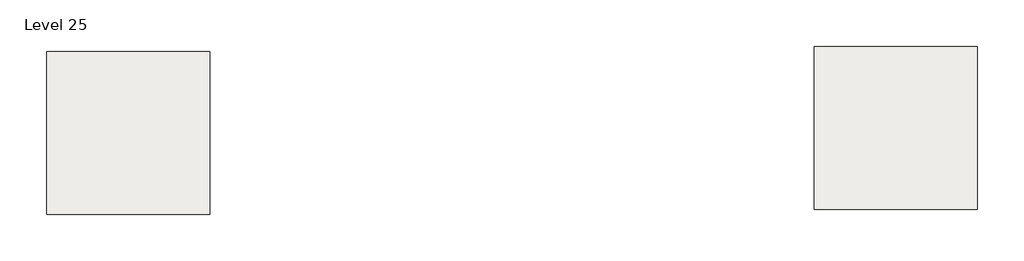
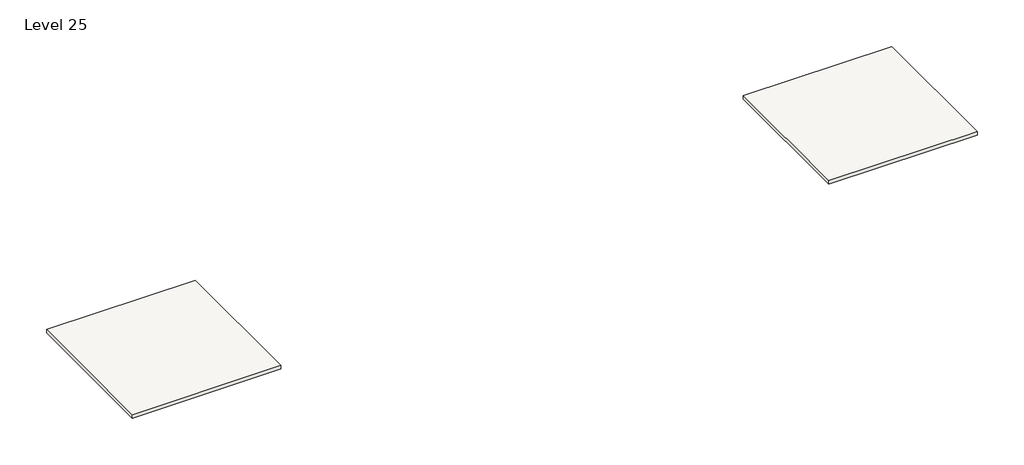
# One storey: 2 slabs.
"""IFC4 building model written with IfcOpenShell, lengths in millimetres."""

from ifc_helpers import new_model, si_unit, frame, origin, place, context, project, spatial, polyline, outline, extrude, element, save

model = new_model("IFC4")

# Units and contexts
model_context = context("Model", 3, world=origin())
ifc_project = project(units=[si_unit("LENGTHUNIT", "METRE", prefix="MILLI")], contexts=[model_context])

# Site, building, storey
site = spatial("IfcSite", under=ifc_project)
building = spatial("IfcBuilding", under=site)
storey = spatial("IfcBuildingStorey", under=building, Name="Level 25", Elevation=73152.0)

# Slabs
placement = place(None, origin())
element("IfcSlab", 1, ObjectType="Generic - 12\"", at=placement, inside=storey, context=model_context, shape_type="SweptSolid", body=[
    extrude(outline(polyline([(-19315.4161695, 7973.9495511), (-7123.4161695, 7973.9495511), (-7123.4161695, -4218.0504489), (-19315.4161695, -4218.0504489), (-19315.4161695, 7973.9495511)])), frame((0.0, 0.0, 72847.2), z_axis=(0.0, 0.0, 1.0), x_axis=(1.0, 0.0, 0.0)), (0.0, 0.0, 1.0), 304.8),
])
element("IfcSlab", 2, ObjectType="Generic - 12\"", at=placement, inside=storey, context=model_context, shape_type="SweptSolid", body=[
    extrude(outline(polyline([(38118.2903978, 8351.0904402), (50310.2903978, 8351.0904402), (50310.2903978, -3840.9095598), (38118.2903978, -3840.9095598), (38118.2903978, 8351.0904402)])), frame((0.0, 0.0, 72847.2), z_axis=(0.0, 0.0, 1.0), x_axis=(1.0, 0.0, 0.0)), (0.0, 0.0, 1.0), 304.8),
])

save(model, "model.ifc")
